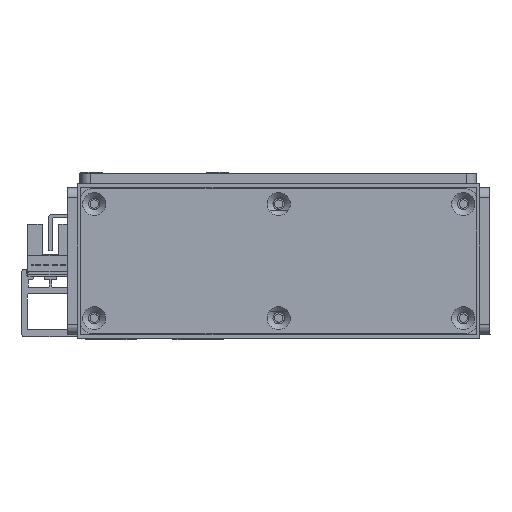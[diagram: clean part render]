
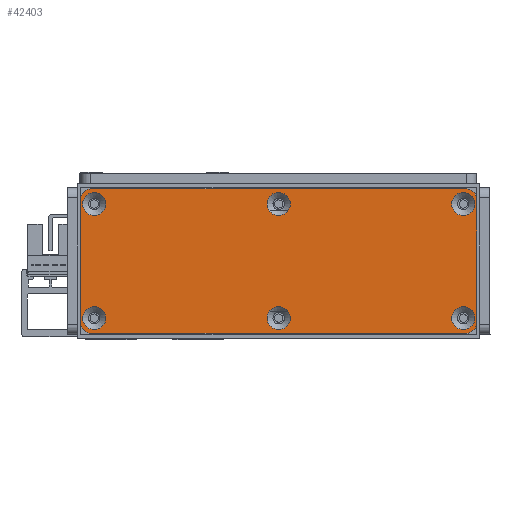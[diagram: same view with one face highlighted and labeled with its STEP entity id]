
A CAD part, front view. The second image highlights one B-rep face of the part: STEP entity #42403.
In plain terms, the highlighted planar face has unit normal (0, -1, 0) as drawn and (0, 0, 1) by its records, which use the part's own axes.
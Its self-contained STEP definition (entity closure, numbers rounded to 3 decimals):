
#723=FACE_BOUND('',#7644,.T.);
#724=FACE_BOUND('',#7645,.T.);
#725=FACE_BOUND('',#7646,.T.);
#726=FACE_BOUND('',#7647,.T.);
#727=FACE_BOUND('',#7648,.T.);
#728=FACE_BOUND('',#7649,.T.);
#2606=PLANE('',#45809);
#5139=FACE_OUTER_BOUND('',#7643,.T.);
#7643=EDGE_LOOP('',(#34258,#34259,#34260,#34261,#34262,#34263,#34264,#34265));
#7644=EDGE_LOOP('',(#34266));
#7645=EDGE_LOOP('',(#34267));
#7646=EDGE_LOOP('',(#34268));
#7647=EDGE_LOOP('',(#34269));
#7648=EDGE_LOOP('',(#34270));
#7649=EDGE_LOOP('',(#34271));
#10492=LINE('',#65159,#15182);
#10496=LINE('',#65171,#15186);
#10500=LINE('',#65183,#15190);
#10504=LINE('',#65193,#15194);
#15182=VECTOR('',#52353,10.);
#15186=VECTOR('',#52365,10.);
#15190=VECTOR('',#52377,10.);
#15194=VECTOR('',#52389,10.);
#19227=CIRCLE('',#45763,3.45);
#19230=CIRCLE('',#45768,3.45);
#19233=CIRCLE('',#45773,3.45);
#19236=CIRCLE('',#45778,3.45);
#19239=CIRCLE('',#45783,3.45);
#19242=CIRCLE('',#45788,3.45);
#19246=CIRCLE('',#45794,3.);
#19248=CIRCLE('',#45798,3.);
#19250=CIRCLE('',#45802,3.);
#19252=CIRCLE('',#45806,3.);
#21071=VERTEX_POINT('',#65087);
#21074=VERTEX_POINT('',#65097);
#21077=VERTEX_POINT('',#65107);
#21080=VERTEX_POINT('',#65117);
#21083=VERTEX_POINT('',#65127);
#21086=VERTEX_POINT('',#65137);
#21091=VERTEX_POINT('',#65150);
#21092=VERTEX_POINT('',#65152);
#21094=VERTEX_POINT('',#65158);
#21096=VERTEX_POINT('',#65164);
#21098=VERTEX_POINT('',#65170);
#21100=VERTEX_POINT('',#65176);
#21102=VERTEX_POINT('',#65182);
#21104=VERTEX_POINT('',#65188);
#25830=EDGE_CURVE('',#21071,#21071,#19227,.T.);
#25835=EDGE_CURVE('',#21074,#21074,#19230,.T.);
#25840=EDGE_CURVE('',#21077,#21077,#19233,.T.);
#25845=EDGE_CURVE('',#21080,#21080,#19236,.T.);
#25850=EDGE_CURVE('',#21083,#21083,#19239,.T.);
#25855=EDGE_CURVE('',#21086,#21086,#19242,.T.);
#25862=EDGE_CURVE('',#21092,#21091,#19246,.T.);
#25865=EDGE_CURVE('',#21094,#21092,#10492,.T.);
#25868=EDGE_CURVE('',#21096,#21094,#19248,.T.);
#25871=EDGE_CURVE('',#21098,#21096,#10496,.T.);
#25874=EDGE_CURVE('',#21100,#21098,#19250,.T.);
#25877=EDGE_CURVE('',#21102,#21100,#10500,.T.);
#25880=EDGE_CURVE('',#21104,#21102,#19252,.T.);
#25883=EDGE_CURVE('',#21091,#21104,#10504,.T.);
#34258=ORIENTED_EDGE('',*,*,#25883,.T.);
#34259=ORIENTED_EDGE('',*,*,#25880,.T.);
#34260=ORIENTED_EDGE('',*,*,#25877,.T.);
#34261=ORIENTED_EDGE('',*,*,#25874,.T.);
#34262=ORIENTED_EDGE('',*,*,#25871,.T.);
#34263=ORIENTED_EDGE('',*,*,#25868,.T.);
#34264=ORIENTED_EDGE('',*,*,#25865,.T.);
#34265=ORIENTED_EDGE('',*,*,#25862,.T.);
#34266=ORIENTED_EDGE('',*,*,#25830,.T.);
#34267=ORIENTED_EDGE('',*,*,#25835,.T.);
#34268=ORIENTED_EDGE('',*,*,#25840,.T.);
#34269=ORIENTED_EDGE('',*,*,#25845,.T.);
#34270=ORIENTED_EDGE('',*,*,#25850,.T.);
#34271=ORIENTED_EDGE('',*,*,#25855,.T.);
#42403=ADVANCED_FACE('',(#5139,#723,#724,#725,#726,#727,#728),#2606,.T.);
#45763=AXIS2_PLACEMENT_3D('',#65088,#52272,#52273);
#45768=AXIS2_PLACEMENT_3D('',#65098,#52284,#52285);
#45773=AXIS2_PLACEMENT_3D('',#65108,#52296,#52297);
#45778=AXIS2_PLACEMENT_3D('',#65118,#52308,#52309);
#45783=AXIS2_PLACEMENT_3D('',#65128,#52320,#52321);
#45788=AXIS2_PLACEMENT_3D('',#65138,#52332,#52333);
#45794=AXIS2_PLACEMENT_3D('',#65153,#52347,#52348);
#45798=AXIS2_PLACEMENT_3D('',#65165,#52359,#52360);
#45802=AXIS2_PLACEMENT_3D('',#65177,#52371,#52372);
#45806=AXIS2_PLACEMENT_3D('',#65189,#52383,#52384);
#45809=AXIS2_PLACEMENT_3D('',#65195,#52392,#52393);
#52272=DIRECTION('center_axis',(0.,0.,-1.));
#52273=DIRECTION('ref_axis',(1.,0.,0.));
#52284=DIRECTION('center_axis',(0.,0.,-1.));
#52285=DIRECTION('ref_axis',(1.,0.,0.));
#52296=DIRECTION('center_axis',(0.,0.,-1.));
#52297=DIRECTION('ref_axis',(1.,0.,0.));
#52308=DIRECTION('center_axis',(0.,0.,-1.));
#52309=DIRECTION('ref_axis',(1.,0.,0.));
#52320=DIRECTION('center_axis',(0.,0.,-1.));
#52321=DIRECTION('ref_axis',(1.,0.,0.));
#52332=DIRECTION('center_axis',(0.,0.,-1.));
#52333=DIRECTION('ref_axis',(1.,0.,0.));
#52347=DIRECTION('center_axis',(0.,0.,1.));
#52348=DIRECTION('ref_axis',(-1.,0.,0.));
#52353=DIRECTION('',(0.,1.,0.));
#52359=DIRECTION('center_axis',(0.,0.,1.));
#52360=DIRECTION('ref_axis',(0.,1.,0.));
#52365=DIRECTION('',(1.,0.,0.));
#52371=DIRECTION('center_axis',(0.,0.,1.));
#52372=DIRECTION('ref_axis',(1.,0.,0.));
#52377=DIRECTION('',(0.,-1.,0.));
#52383=DIRECTION('center_axis',(0.,0.,1.));
#52384=DIRECTION('ref_axis',(0.,-1.,0.));
#52389=DIRECTION('',(-1.,0.,0.));
#52392=DIRECTION('center_axis',(0.,0.,1.));
#52393=DIRECTION('ref_axis',(1.,0.,0.));
#65087=CARTESIAN_POINT('',(110.55,4.5,3.));
#65088=CARTESIAN_POINT('Origin',(114.,4.5,3.));
#65097=CARTESIAN_POINT('',(55.55,38.5,3.));
#65098=CARTESIAN_POINT('Origin',(59.,38.5,3.));
#65107=CARTESIAN_POINT('',(55.55,4.5,3.));
#65108=CARTESIAN_POINT('Origin',(59.,4.5,3.));
#65117=CARTESIAN_POINT('',(0.55,38.5,3.));
#65118=CARTESIAN_POINT('Origin',(4.,38.5,3.));
#65127=CARTESIAN_POINT('',(110.55,38.5,3.));
#65128=CARTESIAN_POINT('Origin',(114.,38.5,3.));
#65137=CARTESIAN_POINT('',(0.55,4.5,3.));
#65138=CARTESIAN_POINT('Origin',(4.,4.5,3.));
#65150=CARTESIAN_POINT('',(115.,43.,3.));
#65152=CARTESIAN_POINT('',(118.,40.,3.));
#65153=CARTESIAN_POINT('Origin',(115.,40.,3.));
#65158=CARTESIAN_POINT('',(118.,3.,3.));
#65159=CARTESIAN_POINT('',(118.,40.,3.));
#65164=CARTESIAN_POINT('',(115.,0.,3.));
#65165=CARTESIAN_POINT('Origin',(115.,3.,3.));
#65170=CARTESIAN_POINT('',(3.,0.,3.));
#65171=CARTESIAN_POINT('',(115.,0.,3.));
#65176=CARTESIAN_POINT('',(0.,3.,3.));
#65177=CARTESIAN_POINT('Origin',(3.,3.,3.));
#65182=CARTESIAN_POINT('',(0.,40.,3.));
#65183=CARTESIAN_POINT('',(0.,3.,3.));
#65188=CARTESIAN_POINT('',(3.,43.,3.));
#65189=CARTESIAN_POINT('Origin',(3.,40.,3.));
#65193=CARTESIAN_POINT('',(3.,43.,3.));
#65195=CARTESIAN_POINT('Origin',(59.,21.5,3.));
